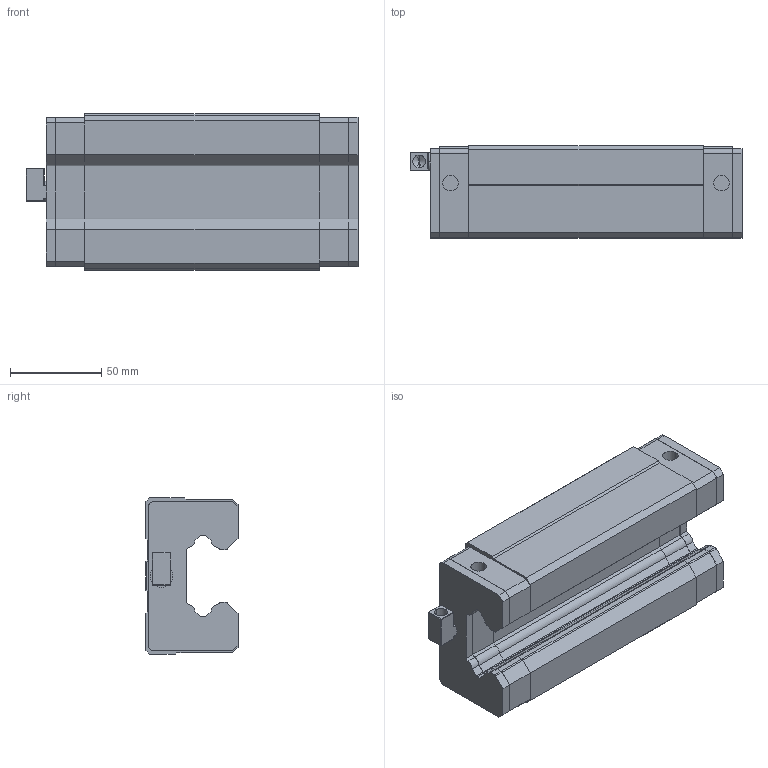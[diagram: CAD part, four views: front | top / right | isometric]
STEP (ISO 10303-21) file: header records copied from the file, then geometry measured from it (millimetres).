
FILE_DESCRIPTION (( 'STEP AP203' ), '1' );
FILE_NAME ('SGL45HA.STEP', '2025-06-27T05:35:40', ( 'Owner' ), ( 'Organization' ), 'SwSTEP 2.0', 'SolidWorks 2020', '' );
FILE_SCHEMA (( 'CONFIG_CONTROL_DESIGN' ));
Length unit declared in the file: millimetre
Products named in the file (1): SGL45HA
Bounding box: 182.2 x 50.5 x 86 mm (x, y, z)
Volume: 536256.3 mm3; surface area: 92443.4 mm2
Topology: 7 solids, 7 shells, 423 faces, 1080 edges, 679 vertices
Faces by surface type: plane 261, cylinder 114, cone 48
Entity records: 12641 total; most frequent: CARTESIAN_POINT 2247, DIRECTION 2156, ORIENTED_EDGE 2140, EDGE_CURVE 1070, VECTOR 772, LINE 772, AXIS2_PLACEMENT_3D 692, VERTEX_POINT 679
